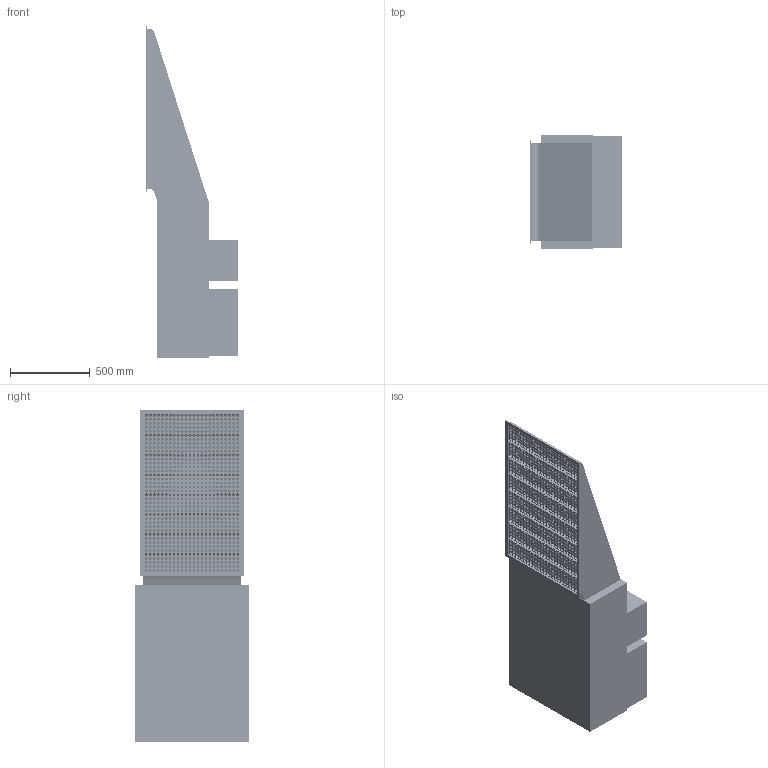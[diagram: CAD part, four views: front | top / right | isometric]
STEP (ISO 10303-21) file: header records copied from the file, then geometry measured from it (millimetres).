
FILE_DESCRIPTION(('Open CASCADE Model'),'2;1');
FILE_NAME('Open CASCADE Shape Model','2026-11-05T06:28:38',('Author'),( 'Open CASCADE'),'Open CASCADE STEP processor 7.9','Open CASCADE 7.9' ,'Unknown');
FILE_SCHEMA(('AUTOMOTIVE_DESIGN { 1 0 10303 214 1 1 1 1 }'));
Length unit declared in the file: millimetre
Products named in the file (29): TAPER_CASSETTE; GUIDE_00; GUIDE_01; GUIDE_02; GUIDE_03; GUIDE_04; GUIDE_05; GUIDE_06; GUIDE_07; GUIDE_08; CHEEK_-307.5; CHEEK_306; BALANCE_BAND_00; BALANCE_BAND_01; BALANCE_BAND_02; BALANCE_BAND_03; BALANCE_BAND_04; BALANCE_BAND_05; BALANCE_BAND_06; BALANCE_BAND_07; SELECT_INNER; DUAL_VALVE_FLANGE; BOX_CHEEK_-359.5; BOX_CHEEK_358; BOTTOM; THROAT_PLATE; RESERVE_P; RESERVE_R; SEAT_RETURN
Assembly tree (28 placements, depth 2):
  TAPER_CASSETTE
    GUIDE_00
    GUIDE_01
    GUIDE_02
    GUIDE_03
    GUIDE_04
    GUIDE_05
    GUIDE_06
    GUIDE_07
    GUIDE_08
    CHEEK_-307.5
    CHEEK_306
    BALANCE_BAND_00
    BALANCE_BAND_01
    BALANCE_BAND_02
    BALANCE_BAND_03
    BALANCE_BAND_04
    BALANCE_BAND_05
    BALANCE_BAND_06
    BALANCE_BAND_07
    SELECT_INNER
    DUAL_VALVE_FLANGE
    BOX_CHEEK_-359.5
    BOX_CHEEK_358
    BOTTOM
    THROAT_PLATE
    RESERVE_P
    RESERVE_R
    SEAT_RETURN
Bounding box: 574.1 x 719 x 2081.5 mm (x, y, z)
Volume: 96217082.2 mm3; surface area: 14729600.6 mm2
Topology: 28 solids, 28 shells, 1578 faces, 4566 edges, 3044 vertices
Faces by surface type: cylinder 1020, plane 558
Full cylindrical faces by diameter (mm): 9 x60, 18.1 x120, 18.4 x120, 18.6 x120, 18.8 x120, 19.1 x120, 19.4 x120, 19.7 x120, 20 x120
Entity records: 116912 total; most frequent: DIRECTION 18888, CARTESIAN_POINT 18413, LINE 9554, VECTOR 9554, ORIENTED_EDGE 9132, PCURVE 9132, DEFINITIONAL_REPRESENTATION 9132, EDGE_CURVE 4566
